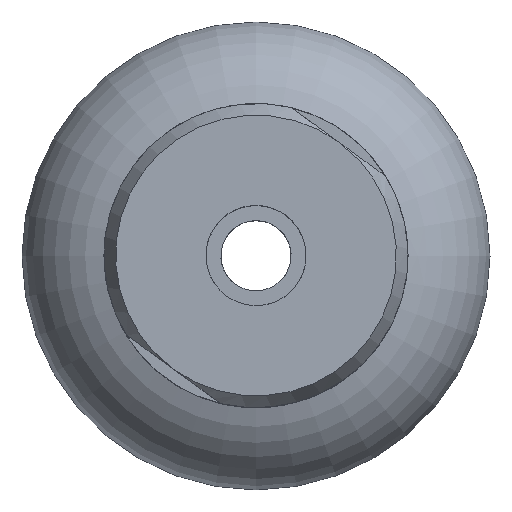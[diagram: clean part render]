
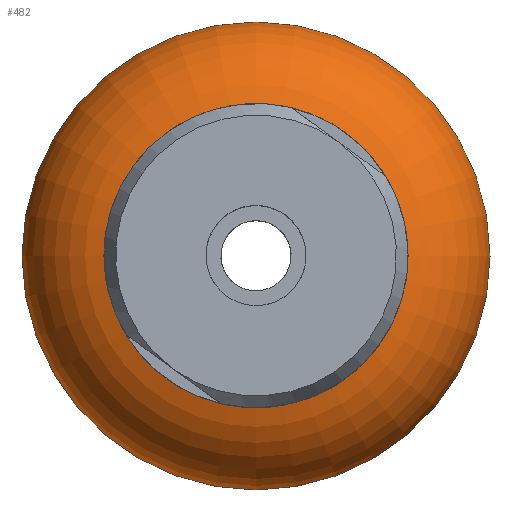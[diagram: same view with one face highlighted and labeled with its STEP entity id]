
A CAD part, top view. The second image highlights one B-rep face of the part: STEP entity #482.
In plain terms, the highlighted toroidal (fillet/blend) face has major radius 10.784 mm and minor radius 9.3 mm.
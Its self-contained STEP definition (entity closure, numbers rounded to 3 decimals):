
#482 = ADVANCED_FACE( '', ( #961, #962 ), #963, .T. );
#961 = FACE_OUTER_BOUND( '', #1367, .T. );
#962 = FACE_OUTER_BOUND( '', #1368, .T. );
#963 = TOROIDAL_SURFACE( '', #1369, 10.784, 9.3 );
#1367 = EDGE_LOOP( '', ( #2727 ) );
#1368 = EDGE_LOOP( '', ( #2728 ) );
#1369 = AXIS2_PLACEMENT_3D( '', #2729, #2730, #2731 );
#2727 = ORIENTED_EDGE( '', *, *, #3097, .T. );
#2728 = ORIENTED_EDGE( '', *, *, #3391, .F. );
#2729 = CARTESIAN_POINT( '', ( 0., 0., -8.251 ) );
#2730 = DIRECTION( '', ( 0., 0., 1. ) );
#2731 = DIRECTION( '', ( 1., 0., 0. ) );
#3097 = EDGE_CURVE( '', #3678, #3678, #3679, .T. );
#3391 = EDGE_CURVE( '', #4141, #4141, #4142, .F. );
#3678 = VERTEX_POINT( '', #4547 );
#3679 = CIRCLE( '', #4548, 20. );
#4141 = VERTEX_POINT( '', #5490 );
#4142 = CIRCLE( '', #5491, 13. );
#4547 = CARTESIAN_POINT( '', ( 20., 0., -7. ) );
#4548 = AXIS2_PLACEMENT_3D( '', #5663, #5664, #5665 );
#5490 = CARTESIAN_POINT( '', ( -13., 0., 0.782 ) );
#5491 = AXIS2_PLACEMENT_3D( '', #6140, #6141, #6142 );
#5663 = CARTESIAN_POINT( '', ( 0., 0., -7. ) );
#5664 = DIRECTION( '', ( 0., 0., 1. ) );
#5665 = DIRECTION( '', ( 1., 0., 0. ) );
#6140 = CARTESIAN_POINT( '', ( 0., 0., 0.782 ) );
#6141 = DIRECTION( '', ( 0., 0., -1. ) );
#6142 = DIRECTION( '', ( -1., 0., 0. ) );
